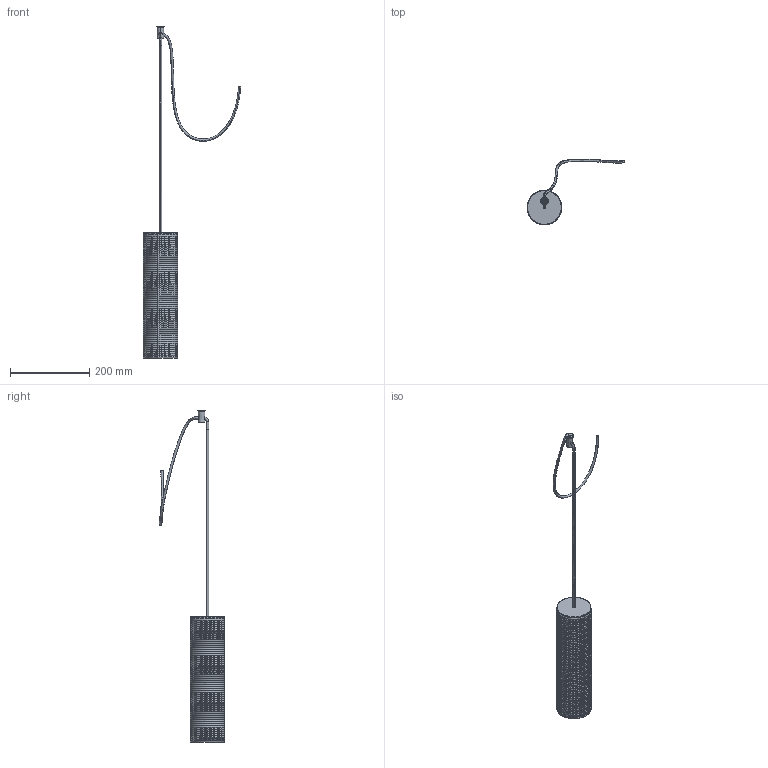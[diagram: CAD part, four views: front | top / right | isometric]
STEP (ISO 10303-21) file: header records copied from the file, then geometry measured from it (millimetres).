
FILE_DESCRIPTION(/* description */ (''),/* implementation_level */ '2;1');
FILE_NAME(/* name */ 'Clio M094__.000',/* time_stamp */ '2025-05-29T16:24:41+02:00',/* author */ (''),/* organization */ (''),/* preprocessor_version */ 'ST-DEVELOPER v16.5',/* originating_system */ '',/* authorisation */ '');
FILE_SCHEMA (('AUTOMOTIVE_DESIGN'));
Products named in the file (6): Document; 3300.0027000.00 (tubo copertura portalampada ALL D 45mm H 77mm sp 1)_
3304.0027000.00; 3100.0012000.00 (cilindro appendimento cavo PMMA D 16mm H 30mm)_3105.
0012000.99; 5200.0004000.00 (base di fissaggio OTTONE D 20mm H 6,5mm con innesto 
maschio M10x1 Sacla 95284)_5200.0004000.00; 4504.0007000.00 (grano I M6x8 Steab 5068-8)_4504.0007000.00; 4501.0003000.00 (cavo PVC 2x0,75 con rivestimento seta nero + puntali
)_Disegno
Assembly tree (5 placements, depth 2):
  Document
    3300.0027000.00 (tubo copertura portalampada ALL D 45mm H 77mm sp 1)_
3304.0027000.00
    3100.0012000.00 (cilindro appendimento cavo PMMA D 16mm H 30mm)_3105.
0012000.99
    5200.0004000.00 (base di fissaggio OTTONE D 20mm H 6,5mm con innesto 
maschio M10x1 Sacla 95284)_5200.0004000.00
    4504.0007000.00 (grano I M6x8 Steab 5068-8)_4504.0007000.00
    4501.0003000.00 (cavo PVC 2x0,75 con rivestimento seta nero + puntali
)_Disegno
Bounding box: 246.39 x 165.22 x 839.35 mm (x, y, z)
Volume: 204728.7 mm3; surface area: 274913.2 mm2
Topology: 9 solids, 9 shells, 851 faces, 1762 edges, 921 vertices
Faces by surface type: bspline 825, plane 26
Entity records: 216525 total; most frequent: CARTESIAN_POINT 207059, ORIENTED_EDGE 3504, EDGE_CURVE 1752, VERTEX_POINT 921, EDGE_LOOP 869, ADVANCED_FACE 851, FACE_OUTER_BOUND 851, B_SPLINE_CURVE_WITH_KNOTS 141
